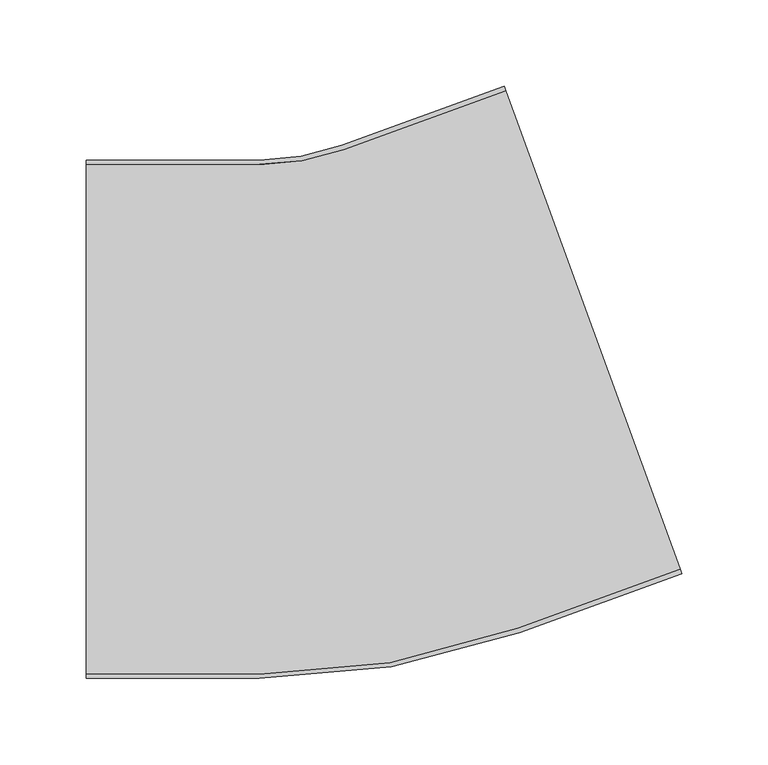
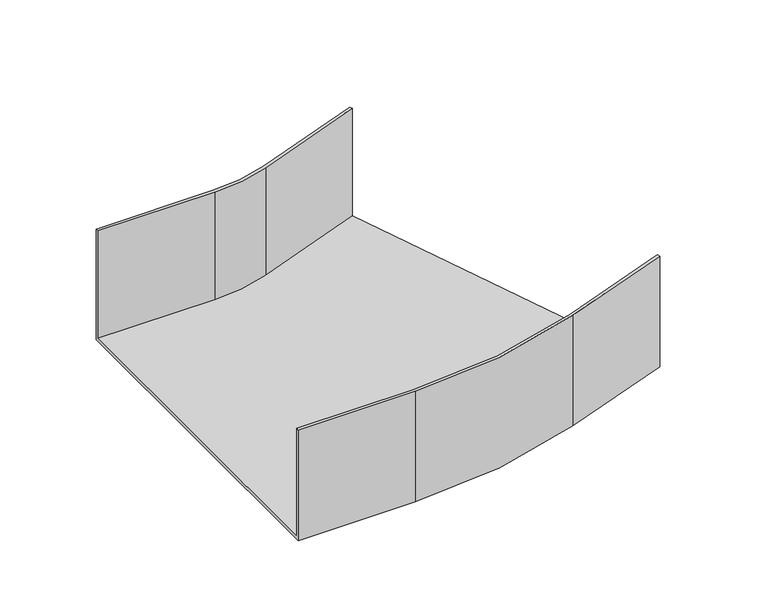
"""IFC4 building model written with IfcOpenShell, lengths in millimetres: cable carrier fitting geometry, BAKS_Horizontal bend radius : KKPJ/KKMPJ_H100."""

from ifc_helpers import new_model, si_unit, frame, origin, place, context, project, spatial, polyline, circle_curve, source, transform, mapped, element, save
from ifc_brep_helpers import plane_surface, cylinder_surface, revolved_surface, advanced_brep


def cable_carrier_fitting_3a6d649d(model_context):
    return source(origin(), model_context, "Body", "AdvancedBrep", [
        advanced_brep(
        [(-151.1348244, -150.0, -50.0), (-151.1348244, -150.0, 50.0), (-151.1348244, -147.46, 50.0), (-151.1348244, -147.46, -47.46), (-151.1348244, 147.46, -47.46), (-151.1348244, 147.46, 50.0), (-151.1348244, 150.0, 50.0), (-151.1348244, 150.0, -50.0), (193.3233007, -89.2627388, -50.0), (90.7172577, 192.6450474, -50.0), (90.7172577, 192.6450474, 50.0), (91.5859889, 190.2582282, 50.0), (91.5859889, 190.2582282, -47.46), (192.4545696, -86.8759196, -47.46), (192.4545696, -86.8759196, 50.0), (193.3233007, -89.2627388, 50.0), (-51.1348244, -150.0, -50.0), (-51.1348244, -150.0, 50.0), (99.3540387, -123.4647531, 50.0), (98.4853075, -121.0779339, 50.0), (-51.1348244, -147.46, 50.0), (-51.1348244, -147.46, -47.46), (98.4853075, -121.0779339, -47.46), (-2.3832732, 156.0562138, -47.46), (-51.1348244, 147.46, -47.46), (-51.1348244, 147.46, 50.0), (-2.3832732, 156.0562138, 50.0), (-3.2520043, 158.4430331, 50.0), (-51.1348244, 150.0, 50.0), (-51.1348244, 150.0, -50.0), (-3.2520043, 158.4430331, -50.0), (99.3540387, -123.4647531, -50.0)],
        [
            (0, 1),
            (1, 2),
            (2, 3),
            (3, 4),
            (4, 5),
            (5, 6),
            (6, 7),
            (7, 0),
            (8, 9),
            (9, 10),
            (10, 11),
            (11, 12),
            (12, 13),
            (13, 14),
            (14, 15),
            (15, 8),
            (0, 16),
            (16, 17),
            (17, 1),
            (17, 18, circle_curve(frame((-51.1348244, 290.0, 50.0), z_axis=(0.0, 0.0, 1.0), x_axis=(0.0, -1.0, 0.0)), 440.0)),
            (18, 15),
            (14, 19),
            (19, 20, circle_curve(frame((-51.1348244, 290.0, 50.0), z_axis=(0.0, 0.0, -1.0), x_axis=(0.0, -1.0, 0.0)), 437.46)),
            (20, 2),
            (20, 21),
            (21, 3),
            (21, 22, circle_curve(frame((-51.1348244, 290.0, -47.46), z_axis=(0.0, 0.0, 1.0), x_axis=(0.0, -1.0, 0.0)), 437.46)),
            (22, 13),
            (12, 23),
            (23, 24, circle_curve(frame((-51.1348244, 290.0, -47.46), z_axis=(0.0, 0.0, -1.0), x_axis=(0.0, -1.0, 0.0)), 142.54)),
            (24, 4),
            (24, 25),
            (25, 5),
            (25, 26, circle_curve(frame((-51.1348244, 290.0, 50.0), z_axis=(0.0, 0.0, 1.0), x_axis=(0.0, -1.0, 0.0)), 142.54)),
            (26, 11),
            (10, 27),
            (27, 28, circle_curve(frame((-51.1348244, 290.0, 50.0), z_axis=(0.0, 0.0, -1.0), x_axis=(0.0, -1.0, 0.0)), 140.0)),
            (28, 6),
            (28, 29),
            (29, 7),
            (29, 30, circle_curve(frame((-51.1348244, 290.0, -50.0), z_axis=(0.0, 0.0, 1.0), x_axis=(0.0, -1.0, 0.0)), 140.0)),
            (30, 9),
            (8, 31),
            (31, 16, circle_curve(frame((-51.1348244, 290.0, -50.0), z_axis=(0.0, 0.0, -1.0), x_axis=(0.0, -1.0, 0.0)), 440.0)),
            (31, 18),
            (19, 22),
            (23, 26),
            (27, 30),
        ],
        [
            plane_surface(frame((-151.1348244, 0.0, 0.0), z_axis=(-1.0, 0.0, 0.0), x_axis=(0.0, 0.0, 1.0))),
            plane_surface(frame((142.0202792, 51.6911543, 0.0), z_axis=(0.9396926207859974, 0.3420201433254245, 0.0), x_axis=(0.0, 0.0, 1.0))),
            plane_surface(frame((-151.1348244, -150.0, -50.0), z_axis=(0.0, -1.0, 0.0), x_axis=(1.0, 0.0, 0.0))),
            plane_surface(frame((-151.1348244, -150.0, 50.0), z_axis=(0.0, 0.0, 1.0), x_axis=(1.0, 0.0, 0.0))),
            plane_surface(frame((-151.1348244, -147.46, 50.0), z_axis=(0.0, 1.0, 0.0), x_axis=(1.0, 0.0, 0.0))),
            plane_surface(frame((-151.1348244, -147.46, -47.46), z_axis=(0.0, 0.0, 1.0), x_axis=(1.0, 0.0, 0.0))),
            plane_surface(frame((-151.1348244, 147.46, -47.46), z_axis=(0.0, -1.0, 0.0), x_axis=(1.0, 0.0, 0.0))),
            plane_surface(frame((-151.1348244, 147.46, 50.0), z_axis=(0.0, 0.0, 1.0), x_axis=(1.0, 0.0, 0.0))),
            plane_surface(frame((-151.1348244, 150.0, 50.0), z_axis=(0.0, 1.0, 0.0), x_axis=(1.0, 0.0, 0.0))),
            plane_surface(frame((-151.1348244, 150.0, -50.0), z_axis=(0.0, 0.0, -1.0), x_axis=(1.0, 0.0, 0.0))),
            cylinder_surface(frame((-51.1348244, 290.0, 0.0), z_axis=(0.0, 0.0, 1.0), x_axis=(0.0, -1.0, 0.0)), 440.0),
            revolved_surface(polyline([(-51.1348244, -147.45999999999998, 50.0), (-51.1348244, -147.45999999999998, -47.46)]), (-51.1348244, 290.0, 0.0), (0.0, 0.0, 1.0)),
            cylinder_surface(frame((-51.1348244, 290.0, 0.0), z_axis=(0.0, 0.0, 1.0), x_axis=(0.0, -1.0, 0.0)), 142.54),
            revolved_surface(polyline([(-51.1348244, 150.0, 50.0), (-51.1348244, 150.0, -50.0)]), (-51.1348244, 290.0, 0.0), (0.0, 0.0, 1.0)),
            plane_surface(frame((99.3540387, -123.4647531, -50.0), z_axis=(0.342020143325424, -0.9396926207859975, 0.0), x_axis=(0.9396926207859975, 0.342020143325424, 0.0))),
            plane_surface(frame((98.4853075, -121.0779339, 50.0), z_axis=(-0.34202014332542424, 0.9396926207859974, 0.0), x_axis=(0.9396926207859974, 0.34202014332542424, 0.0))),
            plane_surface(frame((-2.3832732, 156.0562138, -47.46), z_axis=(0.34202014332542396, -0.9396926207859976, 0.0), x_axis=(0.9396926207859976, 0.34202014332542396, 0.0))),
            plane_surface(frame((-3.2520043, 158.4430331, 50.0), z_axis=(-0.34202014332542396, 0.9396926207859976, 0.0), x_axis=(0.9396926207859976, 0.34202014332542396, 0.0))),
        ],
        [
            (0, [[1, 2, 3, 4, 5, 6, 7, 8]]),
            (1, [[9, 10, 11, 12, 13, 14, 15, 16]]),
            (2, [[-1, 17, 18, 19]]),
            (3, [[-2, -19, 20, 21, -15, 22, 23, 24]]),
            (4, [[-3, -24, 25, 26]]),
            (5, [[-4, -26, 27, 28, -13, 29, 30, 31]]),
            (6, [[-5, -31, 32, 33]]),
            (7, [[-6, -33, 34, 35, -11, 36, 37, 38]]),
            (8, [[-7, -38, 39, 40]]),
            (9, [[-8, -40, 41, 42, -9, 43, 44, -17]]),
            (10, [[-20, -18, -44, 45]]),
            (11, [[-27, -25, -23, 46]]),
            (12, [[-34, -32, -30, 47]]),
            (13, [[-41, -39, -37, 48]]),
            (14, [[-45, -43, -16, -21]]),
            (15, [[-46, -22, -14, -28]]),
            (16, [[-47, -29, -12, -35]]),
            (17, [[-48, -36, -10, -42]]),
        ],
    ),
    ])


if __name__ == "__main__":
    model = new_model("IFC4")
    model_context = context("Model", 3, world=origin())
    ifc_project = project(units=[si_unit("LENGTHUNIT", "METRE", prefix="MILLI")], contexts=[model_context])
    site = spatial("IfcSite", under=ifc_project)
    building = spatial("IfcBuilding", under=site)
    placement = place(None, origin())
    cable_carrier_fitting_shape = cable_carrier_fitting_3a6d649d(model_context)
    element("IfcCableCarrierFitting", 1, ObjectType="BAKS_Horizontal bend radius : KKPJ/KKMPJ_H100", at=placement, inside=building, context=model_context, shape_type="MappedRepresentation", body=[
        mapped(cable_carrier_fitting_shape, transform((0.0, 0.0, 0.0), x_axis=(1.0, 0.0, 0.0), y_axis=(0.0, 1.0, 0.0), z_axis=(0.0, 0.0, 1.0))),
    ])
    save(model, "model.ifc")
